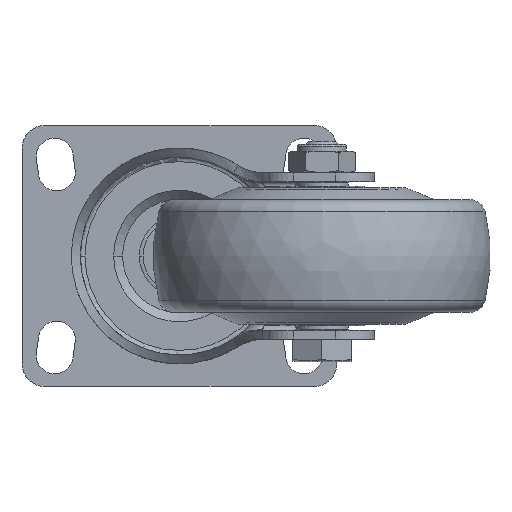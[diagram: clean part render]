
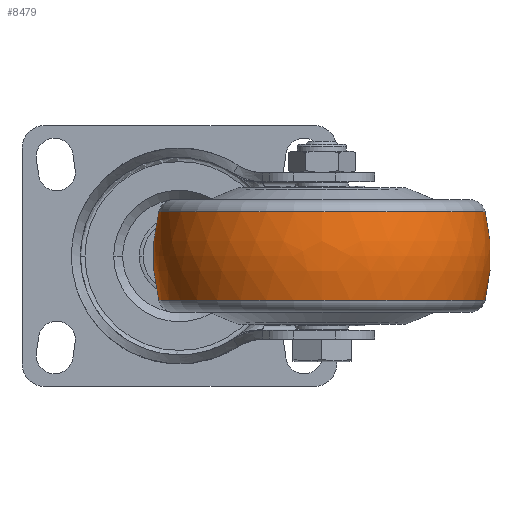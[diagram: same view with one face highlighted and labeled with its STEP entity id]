
A CAD part, front view. The second image highlights one B-rep face of the part: STEP entity #8479.
In plain terms, the highlighted free-form (B-spline) face has degree [3, 3] with [7, 4] control points.
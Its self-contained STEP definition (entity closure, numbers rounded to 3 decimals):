
#8017=CARTESIAN_POINT('',(0.,-2.5,0.));
#8018=DIRECTION('',(0.,0.,1.));
#8019=DIRECTION('',(0.247,0.969,0.));
#8020=AXIS2_PLACEMENT_3D('',#8017,#8018,#8019);
#8022=CARTESIAN_POINT('',(0.,2.5,0.));
#8023=DIRECTION('',(0.,0.,-1.));
#8024=DIRECTION('',(0.247,-0.969,0.));
#8025=AXIS2_PLACEMENT_3D('',#8022,#8023,#8024);
#8027=CARTESIAN_POINT('',(9.863,0.,0.));
#8028=DIRECTION('',(-1.,0.,0.));
#8029=DIRECTION('',(0.,1.,0.));
#8030=AXIS2_PLACEMENT_3D('',#8027,#8028,#8029);
#8042=CARTESIAN_POINT('',(-9.863,0.,0.));
#8043=DIRECTION('',(-1.,0.,0.));
#8044=DIRECTION('',(0.,1.,0.));
#8045=AXIS2_PLACEMENT_3D('',#8042,#8043,#8044);
#8322=CARTESIAN_POINT('',(9.863,36.265,0.));
#8323=CARTESIAN_POINT('',(-9.863,36.265,0.));
#8324=VERTEX_POINT('',#8322);
#8325=VERTEX_POINT('',#8323);
#8362=CARTESIAN_POINT('',(9.863,-36.265,0.));
#8363=CARTESIAN_POINT('',(-9.863,-36.265,0.));
#8364=VERTEX_POINT('',#8362);
#8365=VERTEX_POINT('',#8363);
#8442=CARTESIAN_POINT('',(-10.249,-36.093,
2.271));
#8443=CARTESIAN_POINT('',(-3.494,-37.88,
2.383));
#8444=CARTESIAN_POINT('',(3.494,-37.88,2.383));
#8445=CARTESIAN_POINT('',(10.249,-36.093,2.271));
#8446=CARTESIAN_POINT('',(-10.249,-37.491,
-19.941));
#8447=CARTESIAN_POINT('',(-3.494,-39.347,
-20.928));
#8448=CARTESIAN_POINT('',(3.494,-39.347,
-20.928));
#8449=CARTESIAN_POINT('',(10.249,-37.491,
-19.941));
#8450=CARTESIAN_POINT('',(-10.249,-22.256,
-36.165));
#8451=CARTESIAN_POINT('',(-3.494,-23.358,
-37.955));
#8452=CARTESIAN_POINT('',(3.494,-23.358,
-37.955));
#8453=CARTESIAN_POINT('',(10.249,-22.256,
-36.165));
#8454=CARTESIAN_POINT('',(-10.249,0.,-36.165));
#8455=CARTESIAN_POINT('',(-3.494,0.,-37.955));
#8456=CARTESIAN_POINT('',(3.494,0.,-37.955));
#8457=CARTESIAN_POINT('',(10.249,0.,-36.165));
#8458=CARTESIAN_POINT('',(-10.249,22.256,
-36.165));
#8459=CARTESIAN_POINT('',(-3.494,23.358,
-37.955));
#8460=CARTESIAN_POINT('',(3.494,23.358,-37.955));
#8461=CARTESIAN_POINT('',(10.249,22.256,-36.165));
#8462=CARTESIAN_POINT('',(-10.249,37.491,
-19.941));
#8463=CARTESIAN_POINT('',(-3.494,39.347,
-20.928));
#8464=CARTESIAN_POINT('',(3.494,39.347,-20.928));
#8465=CARTESIAN_POINT('',(10.249,37.491,-19.941));
#8466=CARTESIAN_POINT('',(-10.249,36.093,2.271));
#8467=CARTESIAN_POINT('',(-3.494,37.88,2.383));
#8468=CARTESIAN_POINT('',(3.494,37.88,2.383));
#8469=CARTESIAN_POINT('',(10.249,36.093,2.271));
#8470=(BOUNDED_SURFACE()B_SPLINE_SURFACE(3,3,((#8442,#8443,#8444,#8445),(#8446,
#8447,#8448,#8449),(#8450,#8451,#8452,#8453),(#8454,#8455,#8456,#8457),(#8458,
#8459,#8460,#8461),(#8462,#8463,#8464,#8465),(#8466,#8467,#8468,#8469)),
.UNSPECIFIED.,.F.,.F.,.F.)B_SPLINE_SURFACE_WITH_KNOTS((4,3,4),(4,4),(0.,1.,
2.),(0.,1.),.UNSPECIFIED.)GEOMETRIC_REPRESENTATION_ITEM()RATIONAL_B_SPLINE_SURFACE(((1.207,1.181,1.181,1.207),(
0.953,0.932,0.932,0.953),(
0.953,0.932,0.932,0.953),(
1.207,1.181,1.181,1.207),(
0.953,0.932,0.932,0.953),(
0.953,0.932,0.932,0.953),(
1.207,1.181,1.181,1.207)))REPRESENTATION_ITEM('')SURFACE());
#8471=ORIENTED_EDGE('',*,*,#8431,.T.);
#8473=ORIENTED_EDGE('',*,*,#8472,.T.);
#8474=ORIENTED_EDGE('',*,*,#8435,.F.);
#8476=ORIENTED_EDGE('',*,*,#8475,.F.);
#8477=EDGE_LOOP('',(#8471,#8473,#8474,#8476));
#8478=FACE_OUTER_BOUND('',#8477,.F.);
#8021=CIRCLE('',#8020,40.);
#8026=CIRCLE('',#8025,40.);
#8031=CIRCLE('',#8030,36.265);
#8046=CIRCLE('',#8045,36.265);
#8431=EDGE_CURVE('',#8324,#8325,#8021,.T.);
#8435=EDGE_CURVE('',#8364,#8365,#8026,.T.);
#8472=EDGE_CURVE('',#8325,#8365,#8046,.T.);
#8475=EDGE_CURVE('',#8324,#8364,#8031,.T.);
#8479=ADVANCED_FACE('',(#8478),#8470,.T.);
